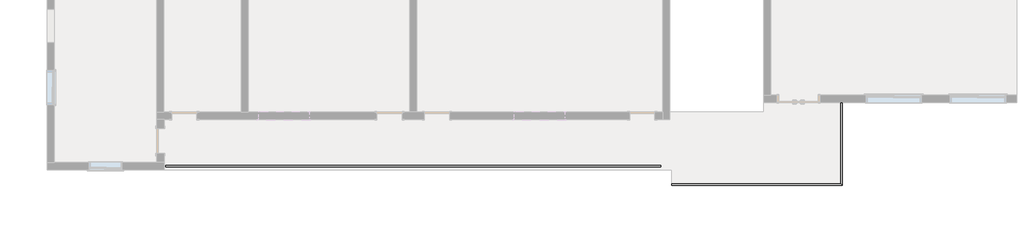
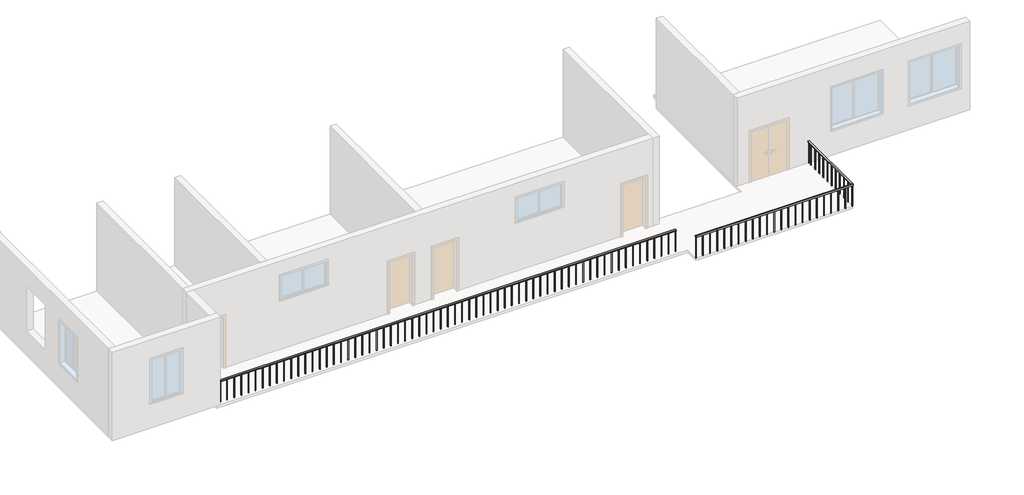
# One storey, part 2 of 2: 2 railings.
"""IFC4 building model written with IfcOpenShell, lengths in millimetres."""

from ifc_helpers import new_model, si_unit, frame, origin, place, context, project, spatial, polyline, outline, extrude, faceted_brep, element, save

model = new_model("IFC4")

# Units and contexts
model_context = context("Model", 3, world=origin())
ifc_project = project(units=[si_unit("LENGTHUNIT", "METRE", prefix="MILLI")], contexts=[model_context])

# Site, building, storey
site = spatial("IfcSite", under=ifc_project)
building = spatial("IfcBuilding", under=site)
storey = spatial("IfcBuildingStorey", under=building, Name="标高 3", Elevation=7200.0)

# Railings
placement = place(None, origin())
element("IfcRailing", 1, ObjectType="900mm", at=placement, inside=storey, context=model_context, shape_type="SweptSolid", body=[
    extrude(outline(polyline([(-4380.3834175, -6175.9601487), (-4380.3834175, -6125.9601487), (13219.6165825, -6125.9601487), (13219.6165825, -6175.9601487), (-4380.3834175, -6175.9601487)])), frame((0.0, 0.0, 8050.0), z_axis=(0.0, 0.0, 1.0), x_axis=(1.0, 0.0, 0.0)), (0.0, 0.0, 1.0), 50.0),
    extrude(outline(polyline([(12934.6165825, -6160.9601487), (12934.6165825, -6140.9601487), (12954.6165825, -6140.9601487), (12954.6165825, -6160.9601487), (12934.6165825, -6160.9601487)])), frame((0.0, 0.0, 7200.0), z_axis=(0.0, 0.0, 1.0), x_axis=(1.0, 0.0, 0.0)), (0.0, 0.0, 1.0), 850.0),
    extrude(outline(polyline([(12659.6165825, -6160.9601487), (12659.6165825, -6140.9601487), (12679.6165825, -6140.9601487), (12679.6165825, -6160.9601487), (12659.6165825, -6160.9601487)])), frame((0.0, 0.0, 7200.0), z_axis=(0.0, 0.0, 1.0), x_axis=(1.0, 0.0, 0.0)), (0.0, 0.0, 1.0), 850.0),
    extrude(outline(polyline([(12384.6165825, -6160.9601487), (12384.6165825, -6140.9601487), (12404.6165825, -6140.9601487), (12404.6165825, -6160.9601487), (12384.6165825, -6160.9601487)])), frame((0.0, 0.0, 7200.0), z_axis=(0.0, 0.0, 1.0), x_axis=(1.0, 0.0, 0.0)), (0.0, 0.0, 1.0), 850.0),
    extrude(outline(polyline([(12109.6165825, -6160.9601487), (12109.6165825, -6140.9601487), (12129.6165825, -6140.9601487), (12129.6165825, -6160.9601487), (12109.6165825, -6160.9601487)])), frame((0.0, 0.0, 7200.0), z_axis=(0.0, 0.0, 1.0), x_axis=(1.0, 0.0, 0.0)), (0.0, 0.0, 1.0), 850.0),
    extrude(outline(polyline([(11834.6165825, -6160.9601487), (11834.6165825, -6140.9601487), (11854.6165825, -6140.9601487), (11854.6165825, -6160.9601487), (11834.6165825, -6160.9601487)])), frame((0.0, 0.0, 7200.0), z_axis=(0.0, 0.0, 1.0), x_axis=(1.0, 0.0, 0.0)), (0.0, 0.0, 1.0), 850.0),
    extrude(outline(polyline([(11559.6165825, -6160.9601487), (11559.6165825, -6140.9601487), (11579.6165825, -6140.9601487), (11579.6165825, -6160.9601487), (11559.6165825, -6160.9601487)])), frame((0.0, 0.0, 7200.0), z_axis=(0.0, 0.0, 1.0), x_axis=(1.0, 0.0, 0.0)), (0.0, 0.0, 1.0), 850.0),
    extrude(outline(polyline([(11284.6165825, -6160.9601487), (11284.6165825, -6140.9601487), (11304.6165825, -6140.9601487), (11304.6165825, -6160.9601487), (11284.6165825, -6160.9601487)])), frame((0.0, 0.0, 7200.0), z_axis=(0.0, 0.0, 1.0), x_axis=(1.0, 0.0, 0.0)), (0.0, 0.0, 1.0), 850.0),
    extrude(outline(polyline([(11009.6165825, -6160.9601487), (11009.6165825, -6140.9601487), (11029.6165825, -6140.9601487), (11029.6165825, -6160.9601487), (11009.6165825, -6160.9601487)])), frame((0.0, 0.0, 7200.0), z_axis=(0.0, 0.0, 1.0), x_axis=(1.0, 0.0, 0.0)), (0.0, 0.0, 1.0), 850.0),
    extrude(outline(polyline([(10734.6165825, -6160.9601487), (10734.6165825, -6140.9601487), (10754.6165825, -6140.9601487), (10754.6165825, -6160.9601487), (10734.6165825, -6160.9601487)])), frame((0.0, 0.0, 7200.0), z_axis=(0.0, 0.0, 1.0), x_axis=(1.0, 0.0, 0.0)), (0.0, 0.0, 1.0), 850.0),
    extrude(outline(polyline([(10459.6165825, -6160.9601487), (10459.6165825, -6140.9601487), (10479.6165825, -6140.9601487), (10479.6165825, -6160.9601487), (10459.6165825, -6160.9601487)])), frame((0.0, 0.0, 7200.0), z_axis=(0.0, 0.0, 1.0), x_axis=(1.0, 0.0, 0.0)), (0.0, 0.0, 1.0), 850.0),
    extrude(outline(polyline([(10184.6165825, -6160.9601487), (10184.6165825, -6140.9601487), (10204.6165825, -6140.9601487), (10204.6165825, -6160.9601487), (10184.6165825, -6160.9601487)])), frame((0.0, 0.0, 7200.0), z_axis=(0.0, 0.0, 1.0), x_axis=(1.0, 0.0, 0.0)), (0.0, 0.0, 1.0), 850.0),
    extrude(outline(polyline([(9909.6165825, -6160.9601487), (9909.6165825, -6140.9601487), (9929.6165825, -6140.9601487), (9929.6165825, -6160.9601487), (9909.6165825, -6160.9601487)])), frame((0.0, 0.0, 7200.0), z_axis=(0.0, 0.0, 1.0), x_axis=(1.0, 0.0, 0.0)), (0.0, 0.0, 1.0), 850.0),
    extrude(outline(polyline([(9634.6165825, -6160.9601487), (9634.6165825, -6140.9601487), (9654.6165825, -6140.9601487), (9654.6165825, -6160.9601487), (9634.6165825, -6160.9601487)])), frame((0.0, 0.0, 7200.0), z_axis=(0.0, 0.0, 1.0), x_axis=(1.0, 0.0, 0.0)), (0.0, 0.0, 1.0), 850.0),
    extrude(outline(polyline([(9359.6165825, -6160.9601487), (9359.6165825, -6140.9601487), (9379.6165825, -6140.9601487), (9379.6165825, -6160.9601487), (9359.6165825, -6160.9601487)])), frame((0.0, 0.0, 7200.0), z_axis=(0.0, 0.0, 1.0), x_axis=(1.0, 0.0, 0.0)), (0.0, 0.0, 1.0), 850.0),
    extrude(outline(polyline([(9084.6165825, -6160.9601487), (9084.6165825, -6140.9601487), (9104.6165825, -6140.9601487), (9104.6165825, -6160.9601487), (9084.6165825, -6160.9601487)])), frame((0.0, 0.0, 7200.0), z_axis=(0.0, 0.0, 1.0), x_axis=(1.0, 0.0, 0.0)), (0.0, 0.0, 1.0), 850.0),
    extrude(outline(polyline([(8809.6165825, -6160.9601487), (8809.6165825, -6140.9601487), (8829.6165825, -6140.9601487), (8829.6165825, -6160.9601487), (8809.6165825, -6160.9601487)])), frame((0.0, 0.0, 7200.0), z_axis=(0.0, 0.0, 1.0), x_axis=(1.0, 0.0, 0.0)), (0.0, 0.0, 1.0), 850.0),
    extrude(outline(polyline([(8534.6165825, -6160.9601487), (8534.6165825, -6140.9601487), (8554.6165825, -6140.9601487), (8554.6165825, -6160.9601487), (8534.6165825, -6160.9601487)])), frame((0.0, 0.0, 7200.0), z_axis=(0.0, 0.0, 1.0), x_axis=(1.0, 0.0, 0.0)), (0.0, 0.0, 1.0), 850.0),
    extrude(outline(polyline([(8259.6165825, -6160.9601487), (8259.6165825, -6140.9601487), (8279.6165825, -6140.9601487), (8279.6165825, -6160.9601487), (8259.6165825, -6160.9601487)])), frame((0.0, 0.0, 7200.0), z_axis=(0.0, 0.0, 1.0), x_axis=(1.0, 0.0, 0.0)), (0.0, 0.0, 1.0), 850.0),
    extrude(outline(polyline([(7984.6165825, -6160.9601487), (7984.6165825, -6140.9601487), (8004.6165825, -6140.9601487), (8004.6165825, -6160.9601487), (7984.6165825, -6160.9601487)])), frame((0.0, 0.0, 7200.0), z_axis=(0.0, 0.0, 1.0), x_axis=(1.0, 0.0, 0.0)), (0.0, 0.0, 1.0), 850.0),
    extrude(outline(polyline([(7709.6165825, -6160.9601487), (7709.6165825, -6140.9601487), (7729.6165825, -6140.9601487), (7729.6165825, -6160.9601487), (7709.6165825, -6160.9601487)])), frame((0.0, 0.0, 7200.0), z_axis=(0.0, 0.0, 1.0), x_axis=(1.0, 0.0, 0.0)), (0.0, 0.0, 1.0), 850.0),
    extrude(outline(polyline([(7434.6165825, -6160.9601487), (7434.6165825, -6140.9601487), (7454.6165825, -6140.9601487), (7454.6165825, -6160.9601487), (7434.6165825, -6160.9601487)])), frame((0.0, 0.0, 7200.0), z_axis=(0.0, 0.0, 1.0), x_axis=(1.0, 0.0, 0.0)), (0.0, 0.0, 1.0), 850.0),
    extrude(outline(polyline([(7159.6165825, -6160.9601487), (7159.6165825, -6140.9601487), (7179.6165825, -6140.9601487), (7179.6165825, -6160.9601487), (7159.6165825, -6160.9601487)])), frame((0.0, 0.0, 7200.0), z_axis=(0.0, 0.0, 1.0), x_axis=(1.0, 0.0, 0.0)), (0.0, 0.0, 1.0), 850.0),
    extrude(outline(polyline([(6884.6165825, -6160.9601487), (6884.6165825, -6140.9601487), (6904.6165825, -6140.9601487), (6904.6165825, -6160.9601487), (6884.6165825, -6160.9601487)])), frame((0.0, 0.0, 7200.0), z_axis=(0.0, 0.0, 1.0), x_axis=(1.0, 0.0, 0.0)), (0.0, 0.0, 1.0), 850.0),
    extrude(outline(polyline([(6609.6165825, -6160.9601487), (6609.6165825, -6140.9601487), (6629.6165825, -6140.9601487), (6629.6165825, -6160.9601487), (6609.6165825, -6160.9601487)])), frame((0.0, 0.0, 7200.0), z_axis=(0.0, 0.0, 1.0), x_axis=(1.0, 0.0, 0.0)), (0.0, 0.0, 1.0), 850.0),
    extrude(outline(polyline([(6334.6165825, -6160.9601487), (6334.6165825, -6140.9601487), (6354.6165825, -6140.9601487), (6354.6165825, -6160.9601487), (6334.6165825, -6160.9601487)])), frame((0.0, 0.0, 7200.0), z_axis=(0.0, 0.0, 1.0), x_axis=(1.0, 0.0, 0.0)), (0.0, 0.0, 1.0), 850.0),
    extrude(outline(polyline([(6059.6165825, -6160.9601487), (6059.6165825, -6140.9601487), (6079.6165825, -6140.9601487), (6079.6165825, -6160.9601487), (6059.6165825, -6160.9601487)])), frame((0.0, 0.0, 7200.0), z_axis=(0.0, 0.0, 1.0), x_axis=(1.0, 0.0, 0.0)), (0.0, 0.0, 1.0), 850.0),
    extrude(outline(polyline([(5784.6165825, -6160.9601487), (5784.6165825, -6140.9601487), (5804.6165825, -6140.9601487), (5804.6165825, -6160.9601487), (5784.6165825, -6160.9601487)])), frame((0.0, 0.0, 7200.0), z_axis=(0.0, 0.0, 1.0), x_axis=(1.0, 0.0, 0.0)), (0.0, 0.0, 1.0), 850.0),
    extrude(outline(polyline([(5509.6165825, -6160.9601487), (5509.6165825, -6140.9601487), (5529.6165825, -6140.9601487), (5529.6165825, -6160.9601487), (5509.6165825, -6160.9601487)])), frame((0.0, 0.0, 7200.0), z_axis=(0.0, 0.0, 1.0), x_axis=(1.0, 0.0, 0.0)), (0.0, 0.0, 1.0), 850.0),
    extrude(outline(polyline([(5234.6165825, -6160.9601487), (5234.6165825, -6140.9601487), (5254.6165825, -6140.9601487), (5254.6165825, -6160.9601487), (5234.6165825, -6160.9601487)])), frame((0.0, 0.0, 7200.0), z_axis=(0.0, 0.0, 1.0), x_axis=(1.0, 0.0, 0.0)), (0.0, 0.0, 1.0), 850.0),
    extrude(outline(polyline([(4959.6165825, -6160.9601487), (4959.6165825, -6140.9601487), (4979.6165825, -6140.9601487), (4979.6165825, -6160.9601487), (4959.6165825, -6160.9601487)])), frame((0.0, 0.0, 7200.0), z_axis=(0.0, 0.0, 1.0), x_axis=(1.0, 0.0, 0.0)), (0.0, 0.0, 1.0), 850.0),
    extrude(outline(polyline([(4684.6165825, -6160.9601487), (4684.6165825, -6140.9601487), (4704.6165825, -6140.9601487), (4704.6165825, -6160.9601487), (4684.6165825, -6160.9601487)])), frame((0.0, 0.0, 7200.0), z_axis=(0.0, 0.0, 1.0), x_axis=(1.0, 0.0, 0.0)), (0.0, 0.0, 1.0), 850.0),
    extrude(outline(polyline([(4409.6165825, -6160.9601487), (4409.6165825, -6140.9601487), (4429.6165825, -6140.9601487), (4429.6165825, -6160.9601487), (4409.6165825, -6160.9601487)])), frame((0.0, 0.0, 7200.0), z_axis=(0.0, 0.0, 1.0), x_axis=(1.0, 0.0, 0.0)), (0.0, 0.0, 1.0), 850.0),
    extrude(outline(polyline([(4134.6165825, -6160.9601487), (4134.6165825, -6140.9601487), (4154.6165825, -6140.9601487), (4154.6165825, -6160.9601487), (4134.6165825, -6160.9601487)])), frame((0.0, 0.0, 7200.0), z_axis=(0.0, 0.0, 1.0), x_axis=(1.0, 0.0, 0.0)), (0.0, 0.0, 1.0), 850.0),
    extrude(outline(polyline([(3859.6165825, -6160.9601487), (3859.6165825, -6140.9601487), (3879.6165825, -6140.9601487), (3879.6165825, -6160.9601487), (3859.6165825, -6160.9601487)])), frame((0.0, 0.0, 7200.0), z_axis=(0.0, 0.0, 1.0), x_axis=(1.0, 0.0, 0.0)), (0.0, 0.0, 1.0), 850.0),
    extrude(outline(polyline([(3584.6165825, -6160.9601487), (3584.6165825, -6140.9601487), (3604.6165825, -6140.9601487), (3604.6165825, -6160.9601487), (3584.6165825, -6160.9601487)])), frame((0.0, 0.0, 7200.0), z_axis=(0.0, 0.0, 1.0), x_axis=(1.0, 0.0, 0.0)), (0.0, 0.0, 1.0), 850.0),
    extrude(outline(polyline([(3309.6165825, -6160.9601487), (3309.6165825, -6140.9601487), (3329.6165825, -6140.9601487), (3329.6165825, -6160.9601487), (3309.6165825, -6160.9601487)])), frame((0.0, 0.0, 7200.0), z_axis=(0.0, 0.0, 1.0), x_axis=(1.0, 0.0, 0.0)), (0.0, 0.0, 1.0), 850.0),
    extrude(outline(polyline([(3034.6165825, -6160.9601487), (3034.6165825, -6140.9601487), (3054.6165825, -6140.9601487), (3054.6165825, -6160.9601487), (3034.6165825, -6160.9601487)])), frame((0.0, 0.0, 7200.0), z_axis=(0.0, 0.0, 1.0), x_axis=(1.0, 0.0, 0.0)), (0.0, 0.0, 1.0), 850.0),
    extrude(outline(polyline([(2759.6165825, -6160.9601487), (2759.6165825, -6140.9601487), (2779.6165825, -6140.9601487), (2779.6165825, -6160.9601487), (2759.6165825, -6160.9601487)])), frame((0.0, 0.0, 7200.0), z_axis=(0.0, 0.0, 1.0), x_axis=(1.0, 0.0, 0.0)), (0.0, 0.0, 1.0), 850.0),
    extrude(outline(polyline([(2484.6165825, -6160.9601487), (2484.6165825, -6140.9601487), (2504.6165825, -6140.9601487), (2504.6165825, -6160.9601487), (2484.6165825, -6160.9601487)])), frame((0.0, 0.0, 7200.0), z_axis=(0.0, 0.0, 1.0), x_axis=(1.0, 0.0, 0.0)), (0.0, 0.0, 1.0), 850.0),
    extrude(outline(polyline([(2209.6165825, -6160.9601487), (2209.6165825, -6140.9601487), (2229.6165825, -6140.9601487), (2229.6165825, -6160.9601487), (2209.6165825, -6160.9601487)])), frame((0.0, 0.0, 7200.0), z_axis=(0.0, 0.0, 1.0), x_axis=(1.0, 0.0, 0.0)), (0.0, 0.0, 1.0), 850.0),
    extrude(outline(polyline([(1934.6165825, -6160.9601487), (1934.6165825, -6140.9601487), (1954.6165825, -6140.9601487), (1954.6165825, -6160.9601487), (1934.6165825, -6160.9601487)])), frame((0.0, 0.0, 7200.0), z_axis=(0.0, 0.0, 1.0), x_axis=(1.0, 0.0, 0.0)), (0.0, 0.0, 1.0), 850.0),
    extrude(outline(polyline([(1659.6165825, -6160.9601487), (1659.6165825, -6140.9601487), (1679.6165825, -6140.9601487), (1679.6165825, -6160.9601487), (1659.6165825, -6160.9601487)])), frame((0.0, 0.0, 7200.0), z_axis=(0.0, 0.0, 1.0), x_axis=(1.0, 0.0, 0.0)), (0.0, 0.0, 1.0), 850.0),
    extrude(outline(polyline([(1384.6165825, -6160.9601487), (1384.6165825, -6140.9601487), (1404.6165825, -6140.9601487), (1404.6165825, -6160.9601487), (1384.6165825, -6160.9601487)])), frame((0.0, 0.0, 7200.0), z_axis=(0.0, 0.0, 1.0), x_axis=(1.0, 0.0, 0.0)), (0.0, 0.0, 1.0), 850.0),
    extrude(outline(polyline([(1109.6165825, -6160.9601487), (1109.6165825, -6140.9601487), (1129.6165825, -6140.9601487), (1129.6165825, -6160.9601487), (1109.6165825, -6160.9601487)])), frame((0.0, 0.0, 7200.0), z_axis=(0.0, 0.0, 1.0), x_axis=(1.0, 0.0, 0.0)), (0.0, 0.0, 1.0), 850.0),
    extrude(outline(polyline([(834.6165825, -6160.9601487), (834.6165825, -6140.9601487), (854.6165825, -6140.9601487), (854.6165825, -6160.9601487), (834.6165825, -6160.9601487)])), frame((0.0, 0.0, 7200.0), z_axis=(0.0, 0.0, 1.0), x_axis=(1.0, 0.0, 0.0)), (0.0, 0.0, 1.0), 850.0),
    extrude(outline(polyline([(559.6165825, -6160.9601487), (559.6165825, -6140.9601487), (579.6165825, -6140.9601487), (579.6165825, -6160.9601487), (559.6165825, -6160.9601487)])), frame((0.0, 0.0, 7200.0), z_axis=(0.0, 0.0, 1.0), x_axis=(1.0, 0.0, 0.0)), (0.0, 0.0, 1.0), 850.0),
    extrude(outline(polyline([(284.6165825, -6160.9601487), (284.6165825, -6140.9601487), (304.6165825, -6140.9601487), (304.6165825, -6160.9601487), (284.6165825, -6160.9601487)])), frame((0.0, 0.0, 7200.0), z_axis=(0.0, 0.0, 1.0), x_axis=(1.0, 0.0, 0.0)), (0.0, 0.0, 1.0), 850.0),
    extrude(outline(polyline([(9.6165825, -6160.9601487), (9.6165825, -6140.9601487), (29.6165825, -6140.9601487), (29.6165825, -6160.9601487), (9.6165825, -6160.9601487)])), frame((0.0, 0.0, 7200.0), z_axis=(0.0, 0.0, 1.0), x_axis=(1.0, 0.0, 0.0)), (0.0, 0.0, 1.0), 850.0),
    extrude(outline(polyline([(-265.3834175, -6160.9601487), (-265.3834175, -6140.9601487), (-245.3834175, -6140.9601487), (-245.3834175, -6160.9601487), (-265.3834175, -6160.9601487)])), frame((0.0, 0.0, 7200.0), z_axis=(0.0, 0.0, 1.0), x_axis=(1.0, 0.0, 0.0)), (0.0, 0.0, 1.0), 850.0),
    extrude(outline(polyline([(-540.3834175, -6160.9601487), (-540.3834175, -6140.9601487), (-520.3834175, -6140.9601487), (-520.3834175, -6160.9601487), (-540.3834175, -6160.9601487)])), frame((0.0, 0.0, 7200.0), z_axis=(0.0, 0.0, 1.0), x_axis=(1.0, 0.0, 0.0)), (0.0, 0.0, 1.0), 850.0),
    extrude(outline(polyline([(-815.3834175, -6160.9601487), (-815.3834175, -6140.9601487), (-795.3834175, -6140.9601487), (-795.3834175, -6160.9601487), (-815.3834175, -6160.9601487)])), frame((0.0, 0.0, 7200.0), z_axis=(0.0, 0.0, 1.0), x_axis=(1.0, 0.0, 0.0)), (0.0, 0.0, 1.0), 850.0),
    extrude(outline(polyline([(-1090.3834175, -6160.9601487), (-1090.3834175, -6140.9601487), (-1070.3834175, -6140.9601487), (-1070.3834175, -6160.9601487), (-1090.3834175, -6160.9601487)])), frame((0.0, 0.0, 7200.0), z_axis=(0.0, 0.0, 1.0), x_axis=(1.0, 0.0, 0.0)), (0.0, 0.0, 1.0), 850.0),
    extrude(outline(polyline([(-1365.3834175, -6160.9601487), (-1365.3834175, -6140.9601487), (-1345.3834175, -6140.9601487), (-1345.3834175, -6160.9601487), (-1365.3834175, -6160.9601487)])), frame((0.0, 0.0, 7200.0), z_axis=(0.0, 0.0, 1.0), x_axis=(1.0, 0.0, 0.0)), (0.0, 0.0, 1.0), 850.0),
    extrude(outline(polyline([(-1640.3834175, -6160.9601487), (-1640.3834175, -6140.9601487), (-1620.3834175, -6140.9601487), (-1620.3834175, -6160.9601487), (-1640.3834175, -6160.9601487)])), frame((0.0, 0.0, 7200.0), z_axis=(0.0, 0.0, 1.0), x_axis=(1.0, 0.0, 0.0)), (0.0, 0.0, 1.0), 850.0),
    extrude(outline(polyline([(-1915.3834175, -6160.9601487), (-1915.3834175, -6140.9601487), (-1895.3834175, -6140.9601487), (-1895.3834175, -6160.9601487), (-1915.3834175, -6160.9601487)])), frame((0.0, 0.0, 7200.0), z_axis=(0.0, 0.0, 1.0), x_axis=(1.0, 0.0, 0.0)), (0.0, 0.0, 1.0), 850.0),
    extrude(outline(polyline([(-2190.3834175, -6160.9601487), (-2190.3834175, -6140.9601487), (-2170.3834175, -6140.9601487), (-2170.3834175, -6160.9601487), (-2190.3834175, -6160.9601487)])), frame((0.0, 0.0, 7200.0), z_axis=(0.0, 0.0, 1.0), x_axis=(1.0, 0.0, 0.0)), (0.0, 0.0, 1.0), 850.0),
    extrude(outline(polyline([(-2465.3834175, -6160.9601487), (-2465.3834175, -6140.9601487), (-2445.3834175, -6140.9601487), (-2445.3834175, -6160.9601487), (-2465.3834175, -6160.9601487)])), frame((0.0, 0.0, 7200.0), z_axis=(0.0, 0.0, 1.0), x_axis=(1.0, 0.0, 0.0)), (0.0, 0.0, 1.0), 850.0),
    extrude(outline(polyline([(-2740.3834175, -6160.9601487), (-2740.3834175, -6140.9601487), (-2720.3834175, -6140.9601487), (-2720.3834175, -6160.9601487), (-2740.3834175, -6160.9601487)])), frame((0.0, 0.0, 7200.0), z_axis=(0.0, 0.0, 1.0), x_axis=(1.0, 0.0, 0.0)), (0.0, 0.0, 1.0), 850.0),
    extrude(outline(polyline([(-3015.3834175, -6160.9601487), (-3015.3834175, -6140.9601487), (-2995.3834175, -6140.9601487), (-2995.3834175, -6160.9601487), (-3015.3834175, -6160.9601487)])), frame((0.0, 0.0, 7200.0), z_axis=(0.0, 0.0, 1.0), x_axis=(1.0, 0.0, 0.0)), (0.0, 0.0, 1.0), 850.0),
    extrude(outline(polyline([(-3290.3834175, -6160.9601487), (-3290.3834175, -6140.9601487), (-3270.3834175, -6140.9601487), (-3270.3834175, -6160.9601487), (-3290.3834175, -6160.9601487)])), frame((0.0, 0.0, 7200.0), z_axis=(0.0, 0.0, 1.0), x_axis=(1.0, 0.0, 0.0)), (0.0, 0.0, 1.0), 850.0),
    extrude(outline(polyline([(-3565.3834175, -6160.9601487), (-3565.3834175, -6140.9601487), (-3545.3834175, -6140.9601487), (-3545.3834175, -6160.9601487), (-3565.3834175, -6160.9601487)])), frame((0.0, 0.0, 7200.0), z_axis=(0.0, 0.0, 1.0), x_axis=(1.0, 0.0, 0.0)), (0.0, 0.0, 1.0), 850.0),
    extrude(outline(polyline([(-3840.3834175, -6160.9601487), (-3840.3834175, -6140.9601487), (-3820.3834175, -6140.9601487), (-3820.3834175, -6160.9601487), (-3840.3834175, -6160.9601487)])), frame((0.0, 0.0, 7200.0), z_axis=(0.0, 0.0, 1.0), x_axis=(1.0, 0.0, 0.0)), (0.0, 0.0, 1.0), 850.0),
    extrude(outline(polyline([(-4115.3834175, -6160.9601487), (-4115.3834175, -6140.9601487), (-4095.3834175, -6140.9601487), (-4095.3834175, -6160.9601487), (-4115.3834175, -6160.9601487)])), frame((0.0, 0.0, 7200.0), z_axis=(0.0, 0.0, 1.0), x_axis=(1.0, 0.0, 0.0)), (0.0, 0.0, 1.0), 850.0),
    extrude(outline(polyline([(13199.6165825, -6160.9601487), (13199.6165825, -6140.9601487), (13219.6165825, -6140.9601487), (13219.6165825, -6160.9601487), (13199.6165825, -6160.9601487)])), frame((0.0, 0.0, 7200.0), z_axis=(0.0, 0.0, 1.0), x_axis=(1.0, 0.0, 0.0)), (0.0, 0.0, 1.0), 850.0),
    extrude(outline(polyline([(-4380.3834175, -6160.9601487), (-4380.3834175, -6140.9601487), (-4360.3834175, -6140.9601487), (-4360.3834175, -6160.9601487), (-4380.3834175, -6160.9601487)])), frame((0.0, 0.0, 7200.0), z_axis=(0.0, 0.0, 1.0), x_axis=(1.0, 0.0, 0.0)), (0.0, 0.0, 1.0), 850.0),
])
element("IfcRailing", 2, ObjectType="900mm", at=placement, inside=storey, context=model_context, shape_type="SolidModel", body=[
    faceted_brep([(13619.6165825, -6775.9601487, 8100.0), (13619.6165825, -6775.9601487, 8050.0), (13619.6165825, -6825.9601487, 8050.0), (13619.6165825, -6825.9601487, 8100.0), (19634.6165825, -6775.9601487, 8100.0), (19634.6165825, -6775.9601487, 8050.0), (19684.6165825, -6825.9601487, 8050.0), (19684.6165825, -6825.9601487, 8100.0), (19634.6165825, -3880.9601487, 8100.0), (19684.6165825, -3880.9601487, 8100.0), (19684.6165825, -3880.9601487, 8050.0), (19634.6165825, -3880.9601487, 8050.0)], [[[0, 1, 2, 3]], [[1, 0, 4, 5]], [[2, 1, 5, 6]], [[3, 2, 6, 7]], [[0, 3, 7, 4]], [[8, 9, 10, 11]], [[5, 4, 8, 11]], [[6, 5, 11, 10]], [[7, 6, 10, 9]], [[4, 7, 9, 8]]]),
    extrude(outline(polyline([(19669.6165825, -4060.9601487), (19649.6165825, -4060.9601487), (19649.6165825, -4040.9601487), (19669.6165825, -4040.9601487), (19669.6165825, -4060.9601487)])), frame((0.0, 0.0, 7200.0), z_axis=(0.0, 0.0, 1.0), x_axis=(1.0, 0.0, 0.0)), (0.0, 0.0, 1.0), 850.0),
    extrude(outline(polyline([(19669.6165825, -4335.9601487), (19649.6165825, -4335.9601487), (19649.6165825, -4315.9601487), (19669.6165825, -4315.9601487), (19669.6165825, -4335.9601487)])), frame((0.0, 0.0, 7200.0), z_axis=(0.0, 0.0, 1.0), x_axis=(1.0, 0.0, 0.0)), (0.0, 0.0, 1.0), 850.0),
    extrude(outline(polyline([(19669.6165825, -4610.9601487), (19649.6165825, -4610.9601487), (19649.6165825, -4590.9601487), (19669.6165825, -4590.9601487), (19669.6165825, -4610.9601487)])), frame((0.0, 0.0, 7200.0), z_axis=(0.0, 0.0, 1.0), x_axis=(1.0, 0.0, 0.0)), (0.0, 0.0, 1.0), 850.0),
    extrude(outline(polyline([(19669.6165825, -4885.9601487), (19649.6165825, -4885.9601487), (19649.6165825, -4865.9601487), (19669.6165825, -4865.9601487), (19669.6165825, -4885.9601487)])), frame((0.0, 0.0, 7200.0), z_axis=(0.0, 0.0, 1.0), x_axis=(1.0, 0.0, 0.0)), (0.0, 0.0, 1.0), 850.0),
    extrude(outline(polyline([(19669.6165825, -5160.9601487), (19649.6165825, -5160.9601487), (19649.6165825, -5140.9601487), (19669.6165825, -5140.9601487), (19669.6165825, -5160.9601487)])), frame((0.0, 0.0, 7200.0), z_axis=(0.0, 0.0, 1.0), x_axis=(1.0, 0.0, 0.0)), (0.0, 0.0, 1.0), 850.0),
    extrude(outline(polyline([(19669.6165825, -5435.9601487), (19649.6165825, -5435.9601487), (19649.6165825, -5415.9601487), (19669.6165825, -5415.9601487), (19669.6165825, -5435.9601487)])), frame((0.0, 0.0, 7200.0), z_axis=(0.0, 0.0, 1.0), x_axis=(1.0, 0.0, 0.0)), (0.0, 0.0, 1.0), 850.0),
    extrude(outline(polyline([(19669.6165825, -5710.9601487), (19649.6165825, -5710.9601487), (19649.6165825, -5690.9601487), (19669.6165825, -5690.9601487), (19669.6165825, -5710.9601487)])), frame((0.0, 0.0, 7200.0), z_axis=(0.0, 0.0, 1.0), x_axis=(1.0, 0.0, 0.0)), (0.0, 0.0, 1.0), 850.0),
    extrude(outline(polyline([(19669.6165825, -5985.9601487), (19649.6165825, -5985.9601487), (19649.6165825, -5965.9601487), (19669.6165825, -5965.9601487), (19669.6165825, -5985.9601487)])), frame((0.0, 0.0, 7200.0), z_axis=(0.0, 0.0, 1.0), x_axis=(1.0, 0.0, 0.0)), (0.0, 0.0, 1.0), 850.0),
    extrude(outline(polyline([(19669.6165825, -6260.9601487), (19649.6165825, -6260.9601487), (19649.6165825, -6240.9601487), (19669.6165825, -6240.9601487), (19669.6165825, -6260.9601487)])), frame((0.0, 0.0, 7200.0), z_axis=(0.0, 0.0, 1.0), x_axis=(1.0, 0.0, 0.0)), (0.0, 0.0, 1.0), 850.0),
    extrude(outline(polyline([(19669.6165825, -6535.9601487), (19649.6165825, -6535.9601487), (19649.6165825, -6515.9601487), (19669.6165825, -6515.9601487), (19669.6165825, -6535.9601487)])), frame((0.0, 0.0, 7200.0), z_axis=(0.0, 0.0, 1.0), x_axis=(1.0, 0.0, 0.0)), (0.0, 0.0, 1.0), 850.0),
    extrude(outline(polyline([(19384.6165825, -6810.9601487), (19384.6165825, -6790.9601487), (19404.6165825, -6790.9601487), (19404.6165825, -6810.9601487), (19384.6165825, -6810.9601487)])), frame((0.0, 0.0, 7200.0), z_axis=(0.0, 0.0, 1.0), x_axis=(1.0, 0.0, 0.0)), (0.0, 0.0, 1.0), 850.0),
    extrude(outline(polyline([(19109.6165825, -6810.9601487), (19109.6165825, -6790.9601487), (19129.6165825, -6790.9601487), (19129.6165825, -6810.9601487), (19109.6165825, -6810.9601487)])), frame((0.0, 0.0, 7200.0), z_axis=(0.0, 0.0, 1.0), x_axis=(1.0, 0.0, 0.0)), (0.0, 0.0, 1.0), 850.0),
    extrude(outline(polyline([(18834.6165825, -6810.9601487), (18834.6165825, -6790.9601487), (18854.6165825, -6790.9601487), (18854.6165825, -6810.9601487), (18834.6165825, -6810.9601487)])), frame((0.0, 0.0, 7200.0), z_axis=(0.0, 0.0, 1.0), x_axis=(1.0, 0.0, 0.0)), (0.0, 0.0, 1.0), 850.0),
    extrude(outline(polyline([(18559.6165825, -6810.9601487), (18559.6165825, -6790.9601487), (18579.6165825, -6790.9601487), (18579.6165825, -6810.9601487), (18559.6165825, -6810.9601487)])), frame((0.0, 0.0, 7200.0), z_axis=(0.0, 0.0, 1.0), x_axis=(1.0, 0.0, 0.0)), (0.0, 0.0, 1.0), 850.0),
    extrude(outline(polyline([(18284.6165825, -6810.9601487), (18284.6165825, -6790.9601487), (18304.6165825, -6790.9601487), (18304.6165825, -6810.9601487), (18284.6165825, -6810.9601487)])), frame((0.0, 0.0, 7200.0), z_axis=(0.0, 0.0, 1.0), x_axis=(1.0, 0.0, 0.0)), (0.0, 0.0, 1.0), 850.0),
    extrude(outline(polyline([(18009.6165825, -6810.9601487), (18009.6165825, -6790.9601487), (18029.6165825, -6790.9601487), (18029.6165825, -6810.9601487), (18009.6165825, -6810.9601487)])), frame((0.0, 0.0, 7200.0), z_axis=(0.0, 0.0, 1.0), x_axis=(1.0, 0.0, 0.0)), (0.0, 0.0, 1.0), 850.0),
    extrude(outline(polyline([(17734.6165825, -6810.9601487), (17734.6165825, -6790.9601487), (17754.6165825, -6790.9601487), (17754.6165825, -6810.9601487), (17734.6165825, -6810.9601487)])), frame((0.0, 0.0, 7200.0), z_axis=(0.0, 0.0, 1.0), x_axis=(1.0, 0.0, 0.0)), (0.0, 0.0, 1.0), 850.0),
    extrude(outline(polyline([(17459.6165825, -6810.9601487), (17459.6165825, -6790.9601487), (17479.6165825, -6790.9601487), (17479.6165825, -6810.9601487), (17459.6165825, -6810.9601487)])), frame((0.0, 0.0, 7200.0), z_axis=(0.0, 0.0, 1.0), x_axis=(1.0, 0.0, 0.0)), (0.0, 0.0, 1.0), 850.0),
    extrude(outline(polyline([(17184.6165825, -6810.9601487), (17184.6165825, -6790.9601487), (17204.6165825, -6790.9601487), (17204.6165825, -6810.9601487), (17184.6165825, -6810.9601487)])), frame((0.0, 0.0, 7200.0), z_axis=(0.0, 0.0, 1.0), x_axis=(1.0, 0.0, 0.0)), (0.0, 0.0, 1.0), 850.0),
    extrude(outline(polyline([(16909.6165825, -6810.9601487), (16909.6165825, -6790.9601487), (16929.6165825, -6790.9601487), (16929.6165825, -6810.9601487), (16909.6165825, -6810.9601487)])), frame((0.0, 0.0, 7200.0), z_axis=(0.0, 0.0, 1.0), x_axis=(1.0, 0.0, 0.0)), (0.0, 0.0, 1.0), 850.0),
    extrude(outline(polyline([(16634.6165825, -6810.9601487), (16634.6165825, -6790.9601487), (16654.6165825, -6790.9601487), (16654.6165825, -6810.9601487), (16634.6165825, -6810.9601487)])), frame((0.0, 0.0, 7200.0), z_axis=(0.0, 0.0, 1.0), x_axis=(1.0, 0.0, 0.0)), (0.0, 0.0, 1.0), 850.0),
    extrude(outline(polyline([(16359.6165825, -6810.9601487), (16359.6165825, -6790.9601487), (16379.6165825, -6790.9601487), (16379.6165825, -6810.9601487), (16359.6165825, -6810.9601487)])), frame((0.0, 0.0, 7200.0), z_axis=(0.0, 0.0, 1.0), x_axis=(1.0, 0.0, 0.0)), (0.0, 0.0, 1.0), 850.0),
    extrude(outline(polyline([(16084.6165825, -6810.9601487), (16084.6165825, -6790.9601487), (16104.6165825, -6790.9601487), (16104.6165825, -6810.9601487), (16084.6165825, -6810.9601487)])), frame((0.0, 0.0, 7200.0), z_axis=(0.0, 0.0, 1.0), x_axis=(1.0, 0.0, 0.0)), (0.0, 0.0, 1.0), 850.0),
    extrude(outline(polyline([(15809.6165825, -6810.9601487), (15809.6165825, -6790.9601487), (15829.6165825, -6790.9601487), (15829.6165825, -6810.9601487), (15809.6165825, -6810.9601487)])), frame((0.0, 0.0, 7200.0), z_axis=(0.0, 0.0, 1.0), x_axis=(1.0, 0.0, 0.0)), (0.0, 0.0, 1.0), 850.0),
    extrude(outline(polyline([(15534.6165825, -6810.9601487), (15534.6165825, -6790.9601487), (15554.6165825, -6790.9601487), (15554.6165825, -6810.9601487), (15534.6165825, -6810.9601487)])), frame((0.0, 0.0, 7200.0), z_axis=(0.0, 0.0, 1.0), x_axis=(1.0, 0.0, 0.0)), (0.0, 0.0, 1.0), 850.0),
    extrude(outline(polyline([(15259.6165825, -6810.9601487), (15259.6165825, -6790.9601487), (15279.6165825, -6790.9601487), (15279.6165825, -6810.9601487), (15259.6165825, -6810.9601487)])), frame((0.0, 0.0, 7200.0), z_axis=(0.0, 0.0, 1.0), x_axis=(1.0, 0.0, 0.0)), (0.0, 0.0, 1.0), 850.0),
    extrude(outline(polyline([(14984.6165825, -6810.9601487), (14984.6165825, -6790.9601487), (15004.6165825, -6790.9601487), (15004.6165825, -6810.9601487), (14984.6165825, -6810.9601487)])), frame((0.0, 0.0, 7200.0), z_axis=(0.0, 0.0, 1.0), x_axis=(1.0, 0.0, 0.0)), (0.0, 0.0, 1.0), 850.0),
    extrude(outline(polyline([(14709.6165825, -6810.9601487), (14709.6165825, -6790.9601487), (14729.6165825, -6790.9601487), (14729.6165825, -6810.9601487), (14709.6165825, -6810.9601487)])), frame((0.0, 0.0, 7200.0), z_axis=(0.0, 0.0, 1.0), x_axis=(1.0, 0.0, 0.0)), (0.0, 0.0, 1.0), 850.0),
    extrude(outline(polyline([(14434.6165825, -6810.9601487), (14434.6165825, -6790.9601487), (14454.6165825, -6790.9601487), (14454.6165825, -6810.9601487), (14434.6165825, -6810.9601487)])), frame((0.0, 0.0, 7200.0), z_axis=(0.0, 0.0, 1.0), x_axis=(1.0, 0.0, 0.0)), (0.0, 0.0, 1.0), 850.0),
    extrude(outline(polyline([(14159.6165825, -6810.9601487), (14159.6165825, -6790.9601487), (14179.6165825, -6790.9601487), (14179.6165825, -6810.9601487), (14159.6165825, -6810.9601487)])), frame((0.0, 0.0, 7200.0), z_axis=(0.0, 0.0, 1.0), x_axis=(1.0, 0.0, 0.0)), (0.0, 0.0, 1.0), 850.0),
    extrude(outline(polyline([(13884.6165825, -6810.9601487), (13884.6165825, -6790.9601487), (13904.6165825, -6790.9601487), (13904.6165825, -6810.9601487), (13884.6165825, -6810.9601487)])), frame((0.0, 0.0, 7200.0), z_axis=(0.0, 0.0, 1.0), x_axis=(1.0, 0.0, 0.0)), (0.0, 0.0, 1.0), 850.0),
    extrude(outline(polyline([(19649.6165825, -6810.9601487), (19649.6165825, -6790.9601487), (19669.6165825, -6790.9601487), (19669.6165825, -6810.9601487), (19649.6165825, -6810.9601487)])), frame((0.0, 0.0, 7200.0), z_axis=(0.0, 0.0, 1.0), x_axis=(1.0, 0.0, 0.0)), (0.0, 0.0, 1.0), 850.0),
    extrude(outline(polyline([(19669.6165825, -3900.9601487), (19649.6165825, -3900.9601487), (19649.6165825, -3880.9601487), (19669.6165825, -3880.9601487), (19669.6165825, -3900.9601487)])), frame((0.0, 0.0, 7200.0), z_axis=(0.0, 0.0, 1.0), x_axis=(1.0, 0.0, 0.0)), (0.0, 0.0, 1.0), 850.0),
    extrude(outline(polyline([(13619.6165825, -6810.9601487), (13619.6165825, -6790.9601487), (13639.6165825, -6790.9601487), (13639.6165825, -6810.9601487), (13619.6165825, -6810.9601487)])), frame((0.0, 0.0, 7200.0), z_axis=(0.0, 0.0, 1.0), x_axis=(1.0, 0.0, 0.0)), (0.0, 0.0, 1.0), 850.0),
])

save(model, "model.ifc")
